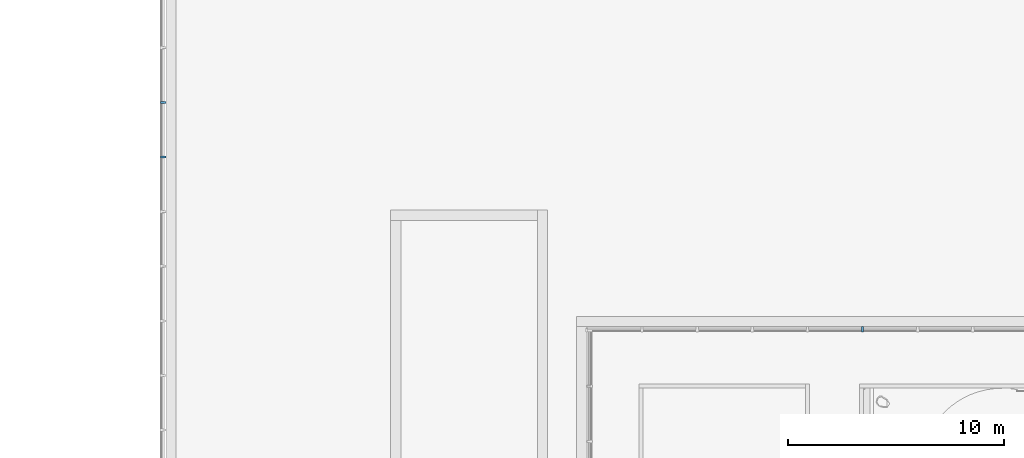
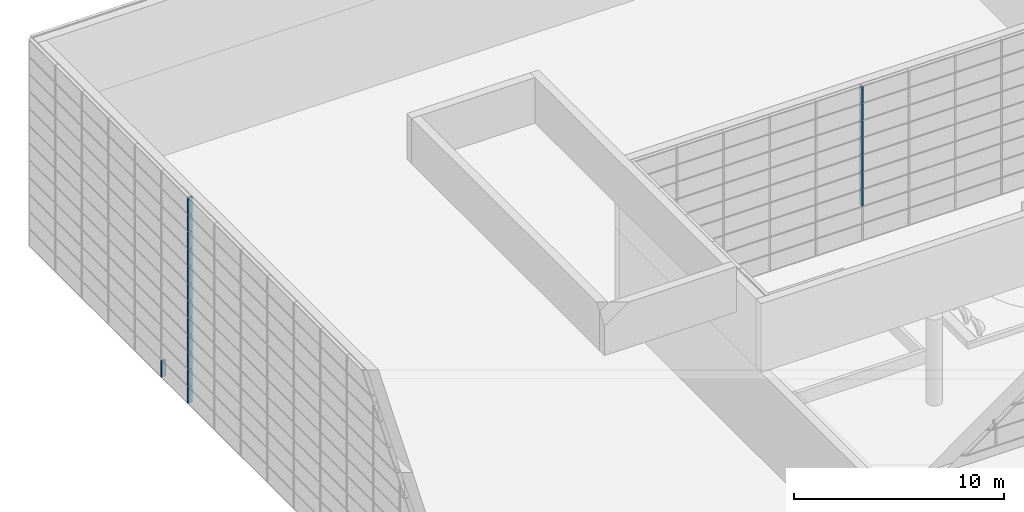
# One storey, part 81 of 105: 20 building element parts, 7 elements without a shape of their own.
"""IFC4 building model written with IfcOpenShell, lengths in millimetres."""

import ifcopenshell
import ifcopenshell.guid

model = None  # the IFC model being written
_history = None  # IfcOwnerHistory: only IFC2X3 demands one
_inside = {}  # id of a spatial element -> (the spatial element, [elements in it])
_under = {}  # id of a project, library or spatial element -> (it, [spatial elements below it])
_declared = {}  # id of a project -> (the project, [libraries it declares])
_typed = {}  # id of a type object -> (the type object, [elements of that type])
_made_of = {}  # id of a material, layer set ... -> (it, [elements and type objects made of it])


def new_model(schema):
    """Start an empty IFC model of exactly this schema.

    Asked for "IFC4X3", IfcOpenShell would pick the latest addendum, in which some entities
    have other attributes; the version numbers below select the first issue.
    IFC2X3 requires an IfcOwnerHistory on every rooted entity: one is made here for all.
    """
    global model, _history
    if schema == "IFC4X3":
        model = ifcopenshell.file(schema_version=(4, 3, 0, 0))
    else:
        model = ifcopenshell.file(schema=schema)
    _inside.clear()
    _under.clear()
    _declared.clear()
    _typed.clear()
    _made_of.clear()
    _history = None
    if model.schema == "IFC2X3":
        org = make("IfcOrganization", Name="unknown")
        user = make(
            "IfcPersonAndOrganization",
            ThePerson=make("IfcPerson", FamilyName="unknown"),
            TheOrganization=org,
        )
        app = make(
            "IfcApplication",
            ApplicationDeveloper=org,
            Version="unknown",
            ApplicationFullName="unknown",
            ApplicationIdentifier="unknown",
        )
        _history = make(
            "IfcOwnerHistory",
            OwningUser=user,
            OwningApplication=app,
            ChangeAction="ADDED",
            CreationDate=0,
        )
    return model


def make(cls, **values):
    """One entity of the class cls with the attributes given. An attribute that is None is left unset."""
    return model.create_entity(
        cls, **{name: value for name, value in values.items() if value is not None}
    )


def entity(cls, *values):
    """Any entity or typed value of the class cls, its attributes in the order of the schema. None: left unset."""
    e = model.create_entity(cls)
    for i, value in enumerate(values):
        if value is not None:
            e[i] = value
    return e


def rooted(cls, **values):
    """An entity with a GlobalId (a new one), such as an element, a storey or a relation."""
    return make(cls, GlobalId=ifcopenshell.guid.new(), OwnerHistory=_history, **values)


def si_unit(unit_type, name, prefix=None):
    """IfcSIUnit, for example si_unit("LENGTHUNIT", "METRE", prefix="MILLI")."""
    return make("IfcSIUnit", UnitType=unit_type, Prefix=prefix, Name=name)


def converted_unit(unit_type, name, factor, base, dimensions=None, offset=None):
    """IfcConversionBasedUnit, such as the inch: factor (a typed value) times the base unit."""
    return make(
        "IfcConversionBasedUnit"
        if offset is None
        else "IfcConversionBasedUnitWithOffset",
        ConversionOffset=offset,
        Dimensions=None
        if dimensions is None
        else entity("IfcDimensionalExponents", *dimensions),
        UnitType=unit_type,
        Name=name,
        ConversionFactor=make(
            "IfcMeasureWithUnit", ValueComponent=factor, UnitComponent=base
        ),
    )


def derived_unit(unit_type, elements):
    """IfcDerivedUnit: a product of units, each with its exponent."""
    return make(
        "IfcDerivedUnit",
        Elements=[
            make("IfcDerivedUnitElement", Unit=unit, Exponent=power)
            for unit, power in elements
        ],
        UnitType=unit_type,
    )


def assignment(units):
    """IfcUnitAssignment: the units of a project."""
    return None if units is None else make("IfcUnitAssignment", Units=units)


def point(xyz):
    """IfcCartesianPoint."""
    return None if xyz is None else make("IfcCartesianPoint", Coordinates=xyz)


def direction(xyz):
    """IfcDirection."""
    return None if xyz is None else make("IfcDirection", DirectionRatios=xyz)


def frame(location, z_axis=None, x_axis=None):
    """IfcAxis2Placement3D, a coordinate frame: its origin and axes. An axis left out is left unset."""
    return make(
        "IfcAxis2Placement3D",
        Location=point(location),
        Axis=direction(z_axis),
        RefDirection=direction(x_axis),
    )


def origin_with_axes():
    """The frame at (0, 0, 0) with the z axis (0, 0, 1) and the x axis (1, 0, 0) written out."""
    return frame((0.0, 0.0, 0.0), z_axis=(0.0, 0.0, 1.0), x_axis=(1.0, 0.0, 0.0))


def place(relative_to, where):
    """IfcLocalPlacement: puts the frame where relative to a parent placement (None: the world)."""
    return make(
        "IfcLocalPlacement", PlacementRelTo=relative_to, RelativePlacement=where
    )


def context(
    kind, dimensions, precision=None, world=None, true_north=None, identifier=None
):
    """IfcGeometricRepresentationContext, for example the 3D "Model" context."""
    return make(
        "IfcGeometricRepresentationContext",
        ContextIdentifier=identifier,
        ContextType=kind,
        CoordinateSpaceDimension=dimensions,
        Precision=precision,
        WorldCoordinateSystem=world,
        TrueNorth=true_north,
    )


def subcontext(parent, identifier, kind, view, scale=None):
    """IfcGeometricRepresentationSubContext, for example "Body" below "Model"."""
    return make(
        "IfcGeometricRepresentationSubContext",
        ContextIdentifier=identifier,
        ContextType=kind,
        ParentContext=parent,
        TargetScale=scale,
        TargetView=view,
    )


def project(units=None, contexts=None):
    """IfcProject with its units and contexts."""
    return rooted(
        "IfcProject",
        Name="project",
        RepresentationContexts=contexts,
        UnitsInContext=assignment(units),
    )


def spatial(cls, under=None, at=None, **own):
    """A site, building, storey or space (cls), placed at a placement, below another one or the project."""
    s = rooted(cls, ObjectPlacement=at, **own)
    if under is not None:
        _under.setdefault(under.id(), (under, []))[1].append(s)
    return s


def point_list(points):
    """IfcCartesianPointList2D or 3D."""
    cls = (
        "IfcCartesianPointList2D" if len(points[0]) == 2 else "IfcCartesianPointList3D"
    )
    return make(cls, CoordList=points)


def triangles(points, corners, closed=None, point_numbers=None):
    """IfcTriangulatedFaceSet: each triangle names its three corners, points numbered from 1."""
    return make(
        "IfcTriangulatedFaceSet",
        Coordinates=point_list(points),
        Closed=closed,
        CoordIndex=corners,
        PnIndex=point_numbers,
    )


def shape(context_of_items, identifier, shape_type, items):
    """IfcShapeRepresentation: the items that make up one representation, for example the "Body"."""
    return make(
        "IfcShapeRepresentation",
        ContextOfItems=context_of_items,
        RepresentationIdentifier=identifier,
        RepresentationType=shape_type,
        Items=items,
    )


def material(Name=None, Category=None):
    """IfcMaterial."""
    return make("IfcMaterial", Name=Name, Category=Category)


def made_of(thing, what):
    """Note that an element or type object is made of a material, layer set ...; save() writes the relation."""
    if what is not None:
        _made_of.setdefault(what.id(), (what, []))[1].append(thing)
    return thing


def element(
    cls,
    number,
    at=None,
    inside=None,
    cuts=None,
    type_object=None,
    material=None,
    context=None,
    identifier="Body",
    shape_type=None,
    held_by="IfcProductDefinitionShape",
    body=None,
    shapes=None,
    **own,
):
    """One element of the class cls, such as IfcWall. Its Tag is "e" and its number.

    at: its placement. inside: the storey or other place that contains it. cuts: it is an
    opening in that element (IfcRelVoidsElement). A single representation is given by context,
    identifier, shape_type and body (its items); several are given by shapes. held_by: the class
    of the entity that holds the representations. save() writes the other relations.
    """
    e = rooted(cls, Tag="e%d" % number, ObjectPlacement=at, **own)
    if body is not None:
        shapes = [shape(context, identifier, shape_type, body)]
    if shapes is not None:
        e.Representation = make(held_by, Representations=shapes)
    if inside is not None:
        _inside.setdefault(inside.id(), (inside, []))[1].append(e)
    if cuts is not None:
        rooted(
            "IfcRelVoidsElement", RelatingBuildingElement=cuts, RelatedOpeningElement=e
        )
    if type_object is not None:
        _typed.setdefault(type_object.id(), (type_object, []))[1].append(e)
    return made_of(e, material)


def aggregate(whole, parts):
    """IfcRelAggregates: a whole, such as a stair, and the parts it consists of."""
    return rooted("IfcRelAggregates", RelatingObject=whole, RelatedObjects=parts)


def save(model, path):
    """Write the relations noted so far, then the file.

    IfcRelAggregates (storeys below a building ...), IfcRelContainedInSpatialStructure (elements
    in a storey), IfcRelDefinesByType, IfcRelAssociatesMaterial and IfcRelDeclares: one each for
    every whole, place, type object, material and project.
    """
    for whole, parts in _under.values():
        aggregate(whole, parts)
    for where, things in _inside.values():
        rooted(
            "IfcRelContainedInSpatialStructure",
            RelatedElements=things,
            RelatingStructure=where,
        )
    for kind, things in _typed.values():
        rooted("IfcRelDefinesByType", RelatedObjects=things, RelatingType=kind)
    for what, things in _made_of.values():
        rooted("IfcRelAssociatesMaterial", RelatedObjects=things, RelatingMaterial=what)
    for by, libraries in _declared.values():
        rooted("IfcRelDeclares", RelatingContext=by, RelatedDefinitions=libraries)
    model.write(path)


model = new_model("IFC4")

# Units and contexts
model_context = context("Model", 3, precision=1e-05, world=origin_with_axes(), true_north=direction((0.0, 1.0)))
body_context = subcontext(model_context, "Body", "Model", "MODEL_VIEW")
ifc_project = project(units=[si_unit("LENGTHUNIT", "METRE", prefix="MILLI"), si_unit("AREAUNIT", "SQUARE_METRE"), si_unit("VOLUMEUNIT", "CUBIC_METRE"), converted_unit("PLANEANGLEUNIT", "DEGREE", entity("IfcLengthMeasure", 0.017453), si_unit("PLANEANGLEUNIT", "RADIAN"), dimensions=[0, 0, 0, 0, 0, 0, 0]), si_unit("SOLIDANGLEUNIT", "STERADIAN"), si_unit("MASSUNIT", "GRAM"), si_unit("TIMEUNIT", "SECOND"), si_unit("THERMODYNAMICTEMPERATUREUNIT", "DEGREE_CELSIUS"), si_unit("LUMINOUSINTENSITYUNIT", "LUMEN"), si_unit("POWERUNIT", "WATT"), derived_unit("THERMALTRANSMITTANCEUNIT", [(si_unit("POWERUNIT", "WATT"), 1), (si_unit("THERMODYNAMICTEMPERATUREUNIT", "KELVIN"), -1), (si_unit("AREAUNIT", "SQUARE_METRE"), -1)])], contexts=[model_context])

# Site, building, storey
site_placement = place(None, origin_with_axes())
site = spatial("IfcSite", under=ifc_project, at=site_placement, Name="Default Site", CompositionType="ELEMENT")
building_placement = place(site_placement, origin_with_axes())
building = spatial("IfcBuilding", under=site, at=building_placement, Name="Default Building", CompositionType="ELEMENT")
storey_placement = place(building_placement, origin_with_axes())
storey = spatial("IfcBuildingStorey", under=building, at=storey_placement, Name="OG - Story", CompositionType="ELEMENT", Elevation=0.0)

# Curtain wall, building element parts
curtain_wall_1_placement = place(storey_placement, origin_with_axes())
curtain_wall_1 = element("IfcCurtainWall", 1, at=curtain_wall_1_placement, inside=storey, Name="Fassade-003", PredefinedType="NOTDEFINED")
ifc_material = material(Name="Blech")
building_element_part_1_placement = place(curtain_wall_1_placement, frame((31551.391327, -51326.104944, 0.0), z_axis=(0.0, 0.0, 1.0), x_axis=(1.0, 0.0, 0.0)))
building_element_part_1 = element("IfcBuildingElementPart", 2, at=building_element_part_1_placement, material=ifc_material, Name="Blech", PredefinedType="NOTDEFINED", context=body_context, shape_type="Tessellation", body=[
    triangles([(200.0, 31538.947, 975.0), (10.0, 31538.947, 975.0), (200.0, 31618.947, 975.0), (10.0, 31568.947, 975.0), (10.0, 31588.947, 975.0), (-9.999, 31568.947, 975.0), (-9.999, 31588.947, 975.0), (-9.999, 31618.947, 975.0), (-9.999, 31538.947, 975.0), (-49.999, 31538.947, 975.0), (-49.999, 31618.947, 975.0), (10.0, 31618.947, 975.0), (10.0, 31588.947, 25.0), (-9.999, 31588.947, 25.0), (-9.999, 31618.947, 25.0), (-49.999, 31618.947, 25.0), (-49.999, 31538.947, 25.0), (-9.999, 31538.947, 25.0), (-9.999, 31568.947, 25.0), (10.0, 31568.947, 25.0), (10.0, 31538.947, 25.0), (200.0, 31538.947, 25.0), (200.0, 31618.947, 25.0), (10.0, 31618.947, 25.0)], [[1, 2, 3], [3, 2, 4], [3, 4, 5], [5, 4, 6], [5, 6, 7], [8, 9, 10], [8, 10, 11], [3, 5, 12], [5, 13, 14], [5, 14, 7], [7, 14, 15], [7, 15, 8], [15, 16, 11], [15, 11, 8], [10, 11, 16], [10, 16, 17], [18, 9, 10], [18, 10, 17], [9, 18, 19], [9, 19, 6], [4, 6, 19], [4, 19, 20], [2, 4, 20], [2, 20, 21], [2, 21, 22], [2, 22, 1], [3, 1, 22], [3, 22, 23], [12, 3, 23], [12, 23, 24], [12, 24, 13], [12, 13, 5], [23, 24, 22], [22, 24, 13], [22, 13, 20], [20, 13, 14], [20, 14, 19], [18, 15, 16], [18, 16, 17], [22, 20, 21]], closed=False),
])
building_element_part_2_placement = place(curtain_wall_1_placement, frame((31551.391327, -51326.104944, 0.0), z_axis=(0.0, 0.0, 1.0), x_axis=(1.0, 0.0, 0.0)))
building_element_part_2 = element("IfcBuildingElementPart", 3, at=building_element_part_2_placement, material=ifc_material, Name="Blech", PredefinedType="NOTDEFINED", context=body_context, shape_type="Tessellation", body=[
    triangles([(200.0, 34065.263, 975.0), (10.0, 34065.263, 975.0), (200.0, 34145.263, 975.0), (10.0, 34095.263, 975.0), (10.0, 34115.263, 975.0), (-9.999, 34095.263, 975.0), (-9.999, 34115.263, 975.0), (-9.999, 34145.263, 975.0), (-9.999, 34065.263, 975.0), (-49.999, 34065.263, 975.0), (-49.999, 34145.263, 975.0), (10.0, 34145.263, 975.0), (10.0, 34115.263, 25.0), (-9.999, 34115.263, 25.0), (-9.999, 34145.263, 25.0), (-49.999, 34145.263, 25.0), (-49.999, 34065.263, 25.0), (-9.999, 34065.263, 25.0), (-9.999, 34095.263, 25.0), (10.0, 34095.263, 25.0), (10.0, 34065.263, 25.0), (200.0, 34065.263, 25.0), (200.0, 34145.263, 25.0), (10.0, 34145.263, 25.0)], [[1, 2, 3], [3, 2, 4], [3, 4, 5], [5, 4, 6], [5, 6, 7], [8, 9, 10], [8, 10, 11], [3, 5, 12], [5, 13, 14], [5, 14, 7], [7, 14, 15], [7, 15, 8], [15, 16, 11], [15, 11, 8], [10, 11, 16], [10, 16, 17], [18, 9, 10], [18, 10, 17], [9, 18, 19], [9, 19, 6], [4, 6, 19], [4, 19, 20], [2, 4, 20], [2, 20, 21], [2, 21, 22], [2, 22, 1], [3, 1, 22], [3, 22, 23], [12, 3, 23], [12, 23, 24], [12, 24, 13], [12, 13, 5], [23, 24, 22], [22, 24, 13], [22, 13, 20], [20, 13, 14], [20, 14, 19], [18, 15, 16], [18, 16, 17], [22, 20, 21]], closed=False),
])
building_element_part_3_placement = place(curtain_wall_1_placement, frame((31551.391327, -51326.104944, 0.0), z_axis=(0.0, 0.0, 1.0), x_axis=(1.0, 0.0, 0.0)))
building_element_part_3 = element("IfcBuildingElementPart", 4, at=building_element_part_3_placement, material=ifc_material, Name="Blech", PredefinedType="NOTDEFINED", context=body_context, shape_type="Tessellation", body=[
    triangles([(200.0, 31538.947, 1975.0), (10.0, 31538.947, 1975.0), (200.0, 31618.947, 1975.0), (10.0, 31568.947, 1975.0), (10.0, 31588.947, 1975.0), (-9.999, 31568.947, 1975.0), (-9.999, 31588.947, 1975.0), (-9.999, 31618.947, 1975.0), (-9.999, 31538.947, 1975.0), (-49.999, 31538.947, 1975.0), (-49.999, 31618.947, 1975.0), (10.0, 31618.947, 1975.0), (10.0, 31588.947, 1025.0), (-9.999, 31588.947, 1025.0), (-9.999, 31618.947, 1025.0), (-49.999, 31618.947, 1025.0), (-49.999, 31538.947, 1025.0), (-9.999, 31538.947, 1025.0), (-9.999, 31568.947, 1025.0), (10.0, 31568.947, 1025.0), (10.0, 31538.947, 1025.0), (200.0, 31538.947, 1025.0), (200.0, 31618.947, 1025.0), (10.0, 31618.947, 1025.0)], [[1, 2, 3], [3, 2, 4], [3, 4, 5], [5, 4, 6], [5, 6, 7], [8, 9, 10], [8, 10, 11], [3, 5, 12], [5, 13, 14], [5, 14, 7], [7, 14, 15], [7, 15, 8], [15, 16, 11], [15, 11, 8], [10, 11, 16], [10, 16, 17], [18, 9, 10], [18, 10, 17], [9, 18, 19], [9, 19, 6], [4, 6, 19], [4, 19, 20], [2, 4, 20], [2, 20, 21], [2, 21, 22], [2, 22, 1], [3, 1, 22], [3, 22, 23], [12, 3, 23], [12, 23, 24], [12, 24, 13], [12, 13, 5], [23, 24, 22], [22, 24, 13], [22, 13, 20], [20, 13, 14], [20, 14, 19], [18, 15, 16], [18, 16, 17], [22, 20, 21]], closed=False),
])
building_element_part_4_placement = place(curtain_wall_1_placement, frame((31551.391327, -51326.104944, 0.0), z_axis=(0.0, 0.0, 1.0), x_axis=(1.0, 0.0, 0.0)))
building_element_part_4 = element("IfcBuildingElementPart", 5, at=building_element_part_4_placement, material=ifc_material, Name="Blech", PredefinedType="NOTDEFINED", context=body_context, shape_type="Tessellation", body=[
    triangles([(200.0, 31538.947, 2975.0), (10.0, 31538.947, 2975.0), (200.0, 31618.947, 2975.0), (10.0, 31568.947, 2975.0), (10.0, 31588.947, 2975.0), (-9.999, 31568.947, 2975.0), (-9.999, 31588.947, 2975.0), (-9.999, 31618.947, 2975.0), (-9.999, 31538.947, 2975.0), (-49.999, 31538.947, 2975.0), (-49.999, 31618.947, 2975.0), (10.0, 31618.947, 2975.0), (10.0, 31588.947, 2025.0), (-9.999, 31588.947, 2025.0), (-9.999, 31618.947, 2025.0), (-49.999, 31618.947, 2025.0), (-49.999, 31538.947, 2025.0), (-9.999, 31538.947, 2025.0), (-9.999, 31568.947, 2025.0), (10.0, 31568.947, 2025.0), (10.0, 31538.947, 2025.0), (200.0, 31538.947, 2025.0), (200.0, 31618.947, 2025.0), (10.0, 31618.947, 2025.0)], [[1, 2, 3], [3, 2, 4], [3, 4, 5], [5, 4, 6], [5, 6, 7], [8, 9, 10], [8, 10, 11], [3, 5, 12], [5, 13, 14], [5, 14, 7], [7, 14, 15], [7, 15, 8], [15, 16, 11], [15, 11, 8], [10, 11, 16], [10, 16, 17], [18, 9, 10], [18, 10, 17], [9, 18, 19], [9, 19, 6], [4, 6, 19], [4, 19, 20], [2, 4, 20], [2, 20, 21], [2, 21, 22], [2, 22, 1], [3, 1, 22], [3, 22, 23], [12, 3, 23], [12, 23, 24], [12, 24, 13], [12, 13, 5], [23, 24, 22], [22, 24, 13], [22, 13, 20], [20, 13, 14], [20, 14, 19], [18, 15, 16], [18, 16, 17], [22, 20, 21]], closed=False),
])
aggregate(curtain_wall_1, [building_element_part_1, building_element_part_2, building_element_part_3, building_element_part_4])

curtain_wall_2_placement = place(storey_placement, origin_with_axes())
curtain_wall_2 = element("IfcCurtainWall", 6, at=curtain_wall_2_placement, inside=storey, Name="Fassade-003", PredefinedType="NOTDEFINED")
building_element_part_5_placement = place(curtain_wall_2_placement, frame((31551.391327, -51326.104944, 3000.0), z_axis=(0.0, 0.0, 1.0), x_axis=(1.0, 0.0, 0.0)))
building_element_part_5 = element("IfcBuildingElementPart", 7, at=building_element_part_5_placement, material=ifc_material, Name="Blech", PredefinedType="NOTDEFINED", context=body_context, shape_type="Tessellation", body=[
    triangles([(200.0, 31538.947, 975.0), (10.0, 31538.947, 975.0), (200.0, 31618.947, 975.0), (10.0, 31568.947, 975.0), (10.0, 31588.947, 975.0), (-9.999, 31568.947, 975.0), (-9.999, 31588.947, 975.0), (-9.999, 31618.947, 975.0), (-9.999, 31538.947, 975.0), (-49.999, 31538.947, 975.0), (-49.999, 31618.947, 975.0), (10.0, 31618.947, 975.0), (10.0, 31588.947, 25.0), (-9.999, 31588.947, 25.0), (-9.999, 31618.947, 25.0), (-49.999, 31618.947, 25.0), (-49.999, 31538.947, 25.0), (-9.999, 31538.947, 25.0), (-9.999, 31568.947, 25.0), (10.0, 31568.947, 25.0), (10.0, 31538.947, 25.0), (200.0, 31538.947, 25.0), (200.0, 31618.947, 25.0), (10.0, 31618.947, 25.0)], [[1, 2, 3], [3, 2, 4], [3, 4, 5], [5, 4, 6], [5, 6, 7], [8, 9, 10], [8, 10, 11], [3, 5, 12], [5, 13, 14], [5, 14, 7], [7, 14, 15], [7, 15, 8], [15, 16, 11], [15, 11, 8], [10, 11, 16], [10, 16, 17], [18, 9, 10], [18, 10, 17], [9, 18, 19], [9, 19, 6], [4, 6, 19], [4, 19, 20], [2, 4, 20], [2, 20, 21], [2, 21, 22], [2, 22, 1], [3, 1, 22], [3, 22, 23], [12, 3, 23], [12, 23, 24], [12, 24, 13], [12, 13, 5], [23, 24, 22], [22, 24, 13], [22, 13, 20], [20, 13, 14], [20, 14, 19], [18, 15, 16], [18, 16, 17], [22, 20, 21]], closed=False),
])
building_element_part_6_placement = place(curtain_wall_2_placement, frame((31551.391327, -51326.104944, 3000.0), z_axis=(0.0, 0.0, 1.0), x_axis=(1.0, 0.0, 0.0)))
building_element_part_6 = element("IfcBuildingElementPart", 8, at=building_element_part_6_placement, material=ifc_material, Name="Blech", PredefinedType="NOTDEFINED", context=body_context, shape_type="Tessellation", body=[
    triangles([(200.0, 31538.947, 1975.0), (10.0, 31538.947, 1975.0), (200.0, 31618.947, 1975.0), (10.0, 31568.947, 1975.0), (10.0, 31588.947, 1975.0), (-9.999, 31568.947, 1975.0), (-9.999, 31588.947, 1975.0), (-9.999, 31618.947, 1975.0), (-9.999, 31538.947, 1975.0), (-49.999, 31538.947, 1975.0), (-49.999, 31618.947, 1975.0), (10.0, 31618.947, 1975.0), (10.0, 31588.947, 1025.0), (-9.999, 31588.947, 1025.0), (-9.999, 31618.947, 1025.0), (-49.999, 31618.947, 1025.0), (-49.999, 31538.947, 1025.0), (-9.999, 31538.947, 1025.0), (-9.999, 31568.947, 1025.0), (10.0, 31568.947, 1025.0), (10.0, 31538.947, 1025.0), (200.0, 31538.947, 1025.0), (200.0, 31618.947, 1025.0), (10.0, 31618.947, 1025.0)], [[1, 2, 3], [3, 2, 4], [3, 4, 5], [5, 4, 6], [5, 6, 7], [8, 9, 10], [8, 10, 11], [3, 5, 12], [5, 13, 14], [5, 14, 7], [7, 14, 15], [7, 15, 8], [15, 16, 11], [15, 11, 8], [10, 11, 16], [10, 16, 17], [18, 9, 10], [18, 10, 17], [9, 18, 19], [9, 19, 6], [4, 6, 19], [4, 19, 20], [2, 4, 20], [2, 20, 21], [2, 21, 22], [2, 22, 1], [3, 1, 22], [3, 22, 23], [12, 3, 23], [12, 23, 24], [12, 24, 13], [12, 13, 5], [23, 24, 22], [22, 24, 13], [22, 13, 20], [20, 13, 14], [20, 14, 19], [18, 15, 16], [18, 16, 17], [22, 20, 21]], closed=False),
])
building_element_part_7_placement = place(curtain_wall_2_placement, frame((31551.391327, -51326.104944, 3000.0), z_axis=(0.0, 0.0, 1.0), x_axis=(1.0, 0.0, 0.0)))
building_element_part_7 = element("IfcBuildingElementPart", 9, at=building_element_part_7_placement, material=ifc_material, Name="Blech", PredefinedType="NOTDEFINED", context=body_context, shape_type="Tessellation", body=[
    triangles([(200.0, 31538.947, 2975.0), (10.0, 31538.947, 2975.0), (200.0, 31618.947, 2975.0), (10.0, 31568.947, 2975.0), (10.0, 31588.947, 2975.0), (-9.999, 31568.947, 2975.0), (-9.999, 31588.947, 2975.0), (-9.999, 31618.947, 2975.0), (-9.999, 31538.947, 2975.0), (-49.999, 31538.947, 2975.0), (-49.999, 31618.947, 2975.0), (10.0, 31618.947, 2975.0), (10.0, 31588.947, 2025.0), (-9.999, 31588.947, 2025.0), (-9.999, 31618.947, 2025.0), (-49.999, 31618.947, 2025.0), (-49.999, 31538.947, 2025.0), (-9.999, 31538.947, 2025.0), (-9.999, 31568.947, 2025.0), (10.0, 31568.947, 2025.0), (10.0, 31538.947, 2025.0), (200.0, 31538.947, 2025.0), (200.0, 31618.947, 2025.0), (10.0, 31618.947, 2025.0)], [[1, 2, 3], [3, 2, 4], [3, 4, 5], [5, 4, 6], [5, 6, 7], [8, 9, 10], [8, 10, 11], [3, 5, 12], [5, 13, 14], [5, 14, 7], [7, 14, 15], [7, 15, 8], [15, 16, 11], [15, 11, 8], [10, 11, 16], [10, 16, 17], [18, 9, 10], [18, 10, 17], [9, 18, 19], [9, 19, 6], [4, 6, 19], [4, 19, 20], [2, 4, 20], [2, 20, 21], [2, 21, 22], [2, 22, 1], [3, 1, 22], [3, 22, 23], [12, 3, 23], [12, 23, 24], [12, 24, 13], [12, 13, 5], [23, 24, 22], [22, 24, 13], [22, 13, 20], [20, 13, 14], [20, 14, 19], [18, 15, 16], [18, 16, 17], [22, 20, 21]], closed=False),
])
aggregate(curtain_wall_2, [building_element_part_5, building_element_part_6, building_element_part_7])

curtain_wall_3_placement = place(storey_placement, origin_with_axes())
curtain_wall_3 = element("IfcCurtainWall", 10, at=curtain_wall_3_placement, inside=storey, Name="Fassade-003", PredefinedType="NOTDEFINED")
building_element_part_8_placement = place(curtain_wall_3_placement, frame((31551.391327, -51326.104944, 6000.0), z_axis=(0.0, 0.0, 1.0), x_axis=(1.0, 0.0, 0.0)))
building_element_part_8 = element("IfcBuildingElementPart", 11, at=building_element_part_8_placement, material=ifc_material, Name="Blech", PredefinedType="NOTDEFINED", context=body_context, shape_type="Tessellation", body=[
    triangles([(200.0, 31538.947, 975.0), (10.0, 31538.947, 975.0), (200.0, 31618.947, 975.0), (10.0, 31568.947, 975.0), (10.0, 31588.947, 975.0), (-9.999, 31568.947, 975.0), (-9.999, 31588.947, 975.0), (-9.999, 31618.947, 975.0), (-9.999, 31538.947, 975.0), (-49.999, 31538.947, 975.0), (-49.999, 31618.947, 975.0), (10.0, 31618.947, 975.0), (10.0, 31588.947, 25.0), (-9.999, 31588.947, 25.0), (-9.999, 31618.947, 25.0), (-49.999, 31618.947, 25.0), (-49.999, 31538.947, 25.0), (-9.999, 31538.947, 25.0), (-9.999, 31568.947, 25.0), (10.0, 31568.947, 25.0), (10.0, 31538.947, 25.0), (200.0, 31538.947, 25.0), (200.0, 31618.947, 25.0), (10.0, 31618.947, 25.0)], [[1, 2, 3], [3, 2, 4], [3, 4, 5], [5, 4, 6], [5, 6, 7], [8, 9, 10], [8, 10, 11], [3, 5, 12], [5, 13, 14], [5, 14, 7], [7, 14, 15], [7, 15, 8], [15, 16, 11], [15, 11, 8], [10, 11, 16], [10, 16, 17], [18, 9, 10], [18, 10, 17], [9, 18, 19], [9, 19, 6], [4, 6, 19], [4, 19, 20], [2, 4, 20], [2, 20, 21], [2, 21, 22], [2, 22, 1], [3, 1, 22], [3, 22, 23], [12, 3, 23], [12, 23, 24], [12, 24, 13], [12, 13, 5], [23, 24, 22], [22, 24, 13], [22, 13, 20], [20, 13, 14], [20, 14, 19], [18, 15, 16], [18, 16, 17], [22, 20, 21]], closed=False),
])
building_element_part_9_placement = place(curtain_wall_3_placement, frame((31551.391327, -51326.104944, 6000.0), z_axis=(0.0, 0.0, 1.0), x_axis=(1.0, 0.0, 0.0)))
building_element_part_9 = element("IfcBuildingElementPart", 12, at=building_element_part_9_placement, material=ifc_material, Name="Blech", PredefinedType="NOTDEFINED", context=body_context, shape_type="Tessellation", body=[
    triangles([(200.0, 31538.947, 1975.0), (10.0, 31538.947, 1975.0), (200.0, 31618.947, 1975.0), (10.0, 31568.947, 1975.0), (10.0, 31588.947, 1975.0), (-9.999, 31568.947, 1975.0), (-9.999, 31588.947, 1975.0), (-9.999, 31618.947, 1975.0), (-9.999, 31538.947, 1975.0), (-49.999, 31538.947, 1975.0), (-49.999, 31618.947, 1975.0), (10.0, 31618.947, 1975.0), (10.0, 31588.947, 1025.0), (-9.999, 31588.947, 1025.0), (-9.999, 31618.947, 1025.0), (-49.999, 31618.947, 1025.0), (-49.999, 31538.947, 1025.0), (-9.999, 31538.947, 1025.0), (-9.999, 31568.947, 1025.0), (10.0, 31568.947, 1025.0), (10.0, 31538.947, 1025.0), (200.0, 31538.947, 1025.0), (200.0, 31618.947, 1025.0), (10.0, 31618.947, 1025.0)], [[1, 2, 3], [3, 2, 4], [3, 4, 5], [5, 4, 6], [5, 6, 7], [8, 9, 10], [8, 10, 11], [3, 5, 12], [5, 13, 14], [5, 14, 7], [7, 14, 15], [7, 15, 8], [15, 16, 11], [15, 11, 8], [10, 11, 16], [10, 16, 17], [18, 9, 10], [18, 10, 17], [9, 18, 19], [9, 19, 6], [4, 6, 19], [4, 19, 20], [2, 4, 20], [2, 20, 21], [2, 21, 22], [2, 22, 1], [3, 1, 22], [3, 22, 23], [12, 3, 23], [12, 23, 24], [12, 24, 13], [12, 13, 5], [23, 24, 22], [22, 24, 13], [22, 13, 20], [20, 13, 14], [20, 14, 19], [18, 15, 16], [18, 16, 17], [22, 20, 21]], closed=False),
])
building_element_part_10_placement = place(curtain_wall_3_placement, frame((31551.391327, -51326.104944, 6000.0), z_axis=(0.0, 0.0, 1.0), x_axis=(1.0, 0.0, 0.0)))
building_element_part_10 = element("IfcBuildingElementPart", 13, at=building_element_part_10_placement, material=ifc_material, Name="Blech", PredefinedType="NOTDEFINED", context=body_context, shape_type="Tessellation", body=[
    triangles([(200.0, 31538.947, 2975.0), (10.0, 31538.947, 2975.0), (200.0, 31618.947, 2975.0), (10.0, 31568.947, 2975.0), (10.0, 31588.947, 2975.0), (-9.999, 31568.947, 2975.0), (-9.999, 31588.947, 2975.0), (-9.999, 31618.947, 2975.0), (-9.999, 31538.947, 2975.0), (-49.999, 31538.947, 2975.0), (-49.999, 31618.947, 2975.0), (10.0, 31618.947, 2975.0), (10.0, 31588.947, 2025.0), (-9.999, 31588.947, 2025.0), (-9.999, 31618.947, 2025.0), (-49.999, 31618.947, 2025.0), (-49.999, 31538.947, 2025.0), (-9.999, 31538.947, 2025.0), (-9.999, 31568.947, 2025.0), (10.0, 31568.947, 2025.0), (10.0, 31538.947, 2025.0), (200.0, 31538.947, 2025.0), (200.0, 31618.947, 2025.0), (10.0, 31618.947, 2025.0)], [[1, 2, 3], [3, 2, 4], [3, 4, 5], [5, 4, 6], [5, 6, 7], [8, 9, 10], [8, 10, 11], [3, 5, 12], [5, 13, 14], [5, 14, 7], [7, 14, 15], [7, 15, 8], [15, 16, 11], [15, 11, 8], [10, 11, 16], [10, 16, 17], [18, 9, 10], [18, 10, 17], [9, 18, 19], [9, 19, 6], [4, 6, 19], [4, 19, 20], [2, 4, 20], [2, 20, 21], [2, 21, 22], [2, 22, 1], [3, 1, 22], [3, 22, 23], [12, 3, 23], [12, 23, 24], [12, 24, 13], [12, 13, 5], [23, 24, 22], [22, 24, 13], [22, 13, 20], [20, 13, 14], [20, 14, 19], [18, 15, 16], [18, 16, 17], [22, 20, 21]], closed=False),
])
aggregate(curtain_wall_3, [building_element_part_8, building_element_part_9, building_element_part_10])

curtain_wall_4_placement = place(storey_placement, origin_with_axes())
curtain_wall_4 = element("IfcCurtainWall", 14, at=curtain_wall_4_placement, inside=storey, Name="Fassade-003", PredefinedType="NOTDEFINED")
building_element_part_11_placement = place(curtain_wall_4_placement, frame((31551.391327, -51326.104944, 9000.0), z_axis=(0.0, 0.0, 1.0), x_axis=(1.0, 0.0, 0.0)))
building_element_part_11 = element("IfcBuildingElementPart", 15, at=building_element_part_11_placement, material=ifc_material, Name="Blech", PredefinedType="NOTDEFINED", context=body_context, shape_type="Tessellation", body=[
    triangles([(200.0, 31538.947, 975.0), (10.0, 31538.947, 975.0), (200.0, 31618.947, 975.0), (10.0, 31568.947, 975.0), (10.0, 31588.947, 975.0), (-9.999, 31568.947, 975.0), (-9.999, 31588.947, 975.0), (-9.999, 31618.947, 975.0), (-9.999, 31538.947, 975.0), (-49.999, 31538.947, 975.0), (-49.999, 31618.947, 975.0), (10.0, 31618.947, 975.0), (10.0, 31588.947, 25.0), (-9.999, 31588.947, 25.0), (-9.999, 31618.947, 25.0), (-49.999, 31618.947, 25.0), (-49.999, 31538.947, 25.0), (-9.999, 31538.947, 25.0), (-9.999, 31568.947, 25.0), (10.0, 31568.947, 25.0), (10.0, 31538.947, 25.0), (200.0, 31538.947, 25.0), (200.0, 31618.947, 25.0), (10.0, 31618.947, 25.0)], [[1, 2, 3], [3, 2, 4], [3, 4, 5], [5, 4, 6], [5, 6, 7], [8, 9, 10], [8, 10, 11], [3, 5, 12], [5, 13, 14], [5, 14, 7], [7, 14, 15], [7, 15, 8], [15, 16, 11], [15, 11, 8], [10, 11, 16], [10, 16, 17], [18, 9, 10], [18, 10, 17], [9, 18, 19], [9, 19, 6], [4, 6, 19], [4, 19, 20], [2, 4, 20], [2, 20, 21], [2, 21, 22], [2, 22, 1], [3, 1, 22], [3, 22, 23], [12, 3, 23], [12, 23, 24], [12, 24, 13], [12, 13, 5], [23, 24, 22], [22, 24, 13], [22, 13, 20], [20, 13, 14], [20, 14, 19], [18, 15, 16], [18, 16, 17], [22, 20, 21]], closed=False),
])
building_element_part_12_placement = place(curtain_wall_4_placement, frame((31551.391327, -51326.104944, 9000.0), z_axis=(0.0, 0.0, 1.0), x_axis=(1.0, 0.0, 0.0)))
building_element_part_12 = element("IfcBuildingElementPart", 16, at=building_element_part_12_placement, material=ifc_material, Name="Blech", PredefinedType="NOTDEFINED", context=body_context, shape_type="Tessellation", body=[
    triangles([(200.0, 31538.947, 1975.0), (10.0, 31538.947, 1975.0), (200.0, 31618.947, 1975.0), (10.0, 31568.947, 1975.0), (10.0, 31588.947, 1975.0), (-9.999, 31568.947, 1975.0), (-9.999, 31588.947, 1975.0), (-9.999, 31618.947, 1975.0), (-9.999, 31538.947, 1975.0), (-49.999, 31538.947, 1975.0), (-49.999, 31618.947, 1975.0), (10.0, 31618.947, 1975.0), (10.0, 31588.947, 1025.0), (-9.999, 31588.947, 1025.0), (-9.999, 31618.947, 1025.0), (-49.999, 31618.947, 1025.0), (-49.999, 31538.947, 1025.0), (-9.999, 31538.947, 1025.0), (-9.999, 31568.947, 1025.0), (10.0, 31568.947, 1025.0), (10.0, 31538.947, 1025.0), (200.0, 31538.947, 1025.0), (200.0, 31618.947, 1025.0), (10.0, 31618.947, 1025.0)], [[1, 2, 3], [3, 2, 4], [3, 4, 5], [5, 4, 6], [5, 6, 7], [8, 9, 10], [8, 10, 11], [3, 5, 12], [5, 13, 14], [5, 14, 7], [7, 14, 15], [7, 15, 8], [15, 16, 11], [15, 11, 8], [10, 11, 16], [10, 16, 17], [18, 9, 10], [18, 10, 17], [9, 18, 19], [9, 19, 6], [4, 6, 19], [4, 19, 20], [2, 4, 20], [2, 20, 21], [2, 21, 22], [2, 22, 1], [3, 1, 22], [3, 22, 23], [12, 3, 23], [12, 23, 24], [12, 24, 13], [12, 13, 5], [23, 24, 22], [22, 24, 13], [22, 13, 20], [20, 13, 14], [20, 14, 19], [18, 15, 16], [18, 16, 17], [22, 20, 21]], closed=False),
])
building_element_part_13_placement = place(curtain_wall_4_placement, frame((31551.391327, -51326.104944, 9000.0), z_axis=(0.0, 0.0, 1.0), x_axis=(1.0, 0.0, 0.0)))
building_element_part_13 = element("IfcBuildingElementPart", 17, at=building_element_part_13_placement, material=ifc_material, Name="Blech", PredefinedType="NOTDEFINED", context=body_context, shape_type="Tessellation", body=[
    triangles([(200.0, 31538.947, 2975.0), (10.0, 31538.947, 2975.0), (200.0, 31618.947, 2975.0), (10.0, 31568.947, 2975.0), (10.0, 31588.947, 2975.0), (-9.999, 31568.947, 2975.0), (-9.999, 31588.947, 2975.0), (-9.999, 31618.947, 2975.0), (-9.999, 31538.947, 2975.0), (-49.999, 31538.947, 2975.0), (-49.999, 31618.947, 2975.0), (10.0, 31618.947, 2975.0), (10.0, 31588.947, 2025.0), (-9.999, 31588.947, 2025.0), (-9.999, 31618.947, 2025.0), (-49.999, 31618.947, 2025.0), (-49.999, 31538.947, 2025.0), (-9.999, 31538.947, 2025.0), (-9.999, 31568.947, 2025.0), (10.0, 31568.947, 2025.0), (10.0, 31538.947, 2025.0), (200.0, 31538.947, 2025.0), (200.0, 31618.947, 2025.0), (10.0, 31618.947, 2025.0)], [[1, 2, 3], [3, 2, 4], [3, 4, 5], [5, 4, 6], [5, 6, 7], [8, 9, 10], [8, 10, 11], [3, 5, 12], [5, 13, 14], [5, 14, 7], [7, 14, 15], [7, 15, 8], [15, 16, 11], [15, 11, 8], [10, 11, 16], [10, 16, 17], [18, 9, 10], [18, 10, 17], [9, 18, 19], [9, 19, 6], [4, 6, 19], [4, 19, 20], [2, 4, 20], [2, 20, 21], [2, 21, 22], [2, 22, 1], [3, 1, 22], [3, 22, 23], [12, 3, 23], [12, 23, 24], [12, 24, 13], [12, 13, 5], [23, 24, 22], [22, 24, 13], [22, 13, 20], [20, 13, 14], [20, 14, 19], [18, 15, 16], [18, 16, 17], [22, 20, 21]], closed=False),
])
aggregate(curtain_wall_4, [building_element_part_11, building_element_part_12, building_element_part_13])

# Curtain wall, building element part
curtain_wall_5_placement = place(storey_placement, origin_with_axes())
curtain_wall_5 = element("IfcCurtainWall", 18, at=curtain_wall_5_placement, inside=storey, Name="Fassade-005", PredefinedType="NOTDEFINED")
building_element_part_14_placement = place(curtain_wall_5_placement, frame((52496.845873, -27789.262838, 3000.0), z_axis=(0.0, 0.0, 1.0), x_axis=(1.0, 0.0, 0.0)))
building_element_part_14 = element("IfcBuildingElementPart", 19, at=building_element_part_14_placement, material=ifc_material, Name="Blech", PredefinedType="NOTDEFINED", context=body_context, shape_type="Tessellation", body=[
    triangles([(11519.091, 10.0, 2975.0), (11519.091, 200.0, 2975.0), (11489.091, 10.0, 2975.0), (11469.091, 10.0, 2975.0), (11489.091, -9.999, 2975.0), (11519.091, -49.999, 2975.0), (11519.091, -9.999, 2975.0), (11439.091, 200.0, 2975.0), (11439.091, 10.0, 2975.0), (11469.091, -9.999, 2975.0), (11439.091, -9.999, 2975.0), (11439.091, -49.999, 2975.0), (11489.091, 10.0, 2025.0), (11519.091, 10.0, 2025.0), (11519.091, 200.0, 2025.0), (11439.091, 200.0, 2025.0), (11439.091, 10.0, 2025.0), (11469.091, 10.0, 2025.0), (11469.091, -9.999, 2025.0), (11439.091, -9.999, 2025.0), (11439.091, -49.999, 2025.0), (11519.091, -49.999, 2025.0), (11519.091, -9.999, 2025.0), (11489.091, -9.999, 2025.0)], [[1, 2, 3], [3, 2, 4], [3, 4, 5], [5, 4, 6], [5, 6, 7], [8, 9, 4], [8, 4, 2], [6, 4, 10], [6, 10, 11], [6, 11, 12], [1, 3, 13], [1, 13, 14], [1, 14, 15], [1, 15, 2], [2, 15, 16], [2, 16, 8], [9, 8, 16], [9, 16, 17], [9, 17, 18], [9, 18, 4], [4, 18, 19], [4, 19, 10], [11, 10, 19], [11, 19, 20], [20, 21, 12], [20, 12, 11], [12, 21, 22], [12, 22, 6], [23, 7, 6], [23, 6, 22], [5, 7, 23], [5, 23, 24], [3, 5, 24], [3, 24, 13], [23, 22, 24], [24, 22, 19], [24, 19, 13], [13, 19, 15], [13, 15, 14], [21, 20, 19], [21, 19, 22], [15, 19, 18], [15, 18, 17], [15, 17, 16]], closed=False),
])
aggregate(curtain_wall_5, [building_element_part_14])

# Curtain wall, building element parts
curtain_wall_6_placement = place(storey_placement, origin_with_axes())
curtain_wall_6 = element("IfcCurtainWall", 20, at=curtain_wall_6_placement, inside=storey, Name="Fassade-005", PredefinedType="NOTDEFINED")
building_element_part_15_placement = place(curtain_wall_6_placement, frame((52496.845873, -27789.262838, 6000.0), z_axis=(0.0, 0.0, 1.0), x_axis=(1.0, 0.0, 0.0)))
building_element_part_15 = element("IfcBuildingElementPart", 21, at=building_element_part_15_placement, material=ifc_material, Name="Blech", PredefinedType="NOTDEFINED", context=body_context, shape_type="Tessellation", body=[
    triangles([(11519.091, 10.0, 975.0), (11519.091, 200.0, 975.0), (11489.091, 10.0, 975.0), (11469.091, 10.0, 975.0), (11489.091, -9.999, 975.0), (11519.091, -49.999, 975.0), (11519.091, -9.999, 975.0), (11439.091, 200.0, 975.0), (11439.091, 10.0, 975.0), (11469.091, -9.999, 975.0), (11439.091, -9.999, 975.0), (11439.091, -49.999, 975.0), (11489.091, 10.0, 25.0), (11519.091, 10.0, 25.0), (11519.091, 200.0, 25.0), (11439.091, 200.0, 25.0), (11439.091, 10.0, 25.0), (11469.091, 10.0, 25.0), (11469.091, -9.999, 25.0), (11439.091, -9.999, 25.0), (11439.091, -49.999, 25.0), (11519.091, -49.999, 25.0), (11519.091, -9.999, 25.0), (11489.091, -9.999, 25.0)], [[1, 2, 3], [3, 2, 4], [3, 4, 5], [5, 4, 6], [5, 6, 7], [8, 9, 4], [8, 4, 2], [6, 4, 10], [6, 10, 11], [6, 11, 12], [1, 3, 13], [1, 13, 14], [1, 14, 15], [1, 15, 2], [2, 15, 16], [2, 16, 8], [9, 8, 16], [9, 16, 17], [9, 17, 18], [9, 18, 4], [4, 18, 19], [4, 19, 10], [11, 10, 19], [11, 19, 20], [20, 21, 12], [20, 12, 11], [12, 21, 22], [12, 22, 6], [23, 7, 6], [23, 6, 22], [5, 7, 23], [5, 23, 24], [3, 5, 24], [3, 24, 13], [23, 22, 24], [24, 22, 19], [24, 19, 13], [13, 19, 15], [13, 15, 14], [21, 20, 19], [21, 19, 22], [15, 19, 18], [15, 18, 17], [15, 17, 16]], closed=False),
])
building_element_part_16_placement = place(curtain_wall_6_placement, frame((52496.845873, -27789.262838, 6000.0), z_axis=(0.0, 0.0, 1.0), x_axis=(1.0, 0.0, 0.0)))
building_element_part_16 = element("IfcBuildingElementPart", 22, at=building_element_part_16_placement, material=ifc_material, Name="Blech", PredefinedType="NOTDEFINED", context=body_context, shape_type="Tessellation", body=[
    triangles([(11519.091, 10.0, 1975.0), (11519.091, 200.0, 1975.0), (11489.091, 10.0, 1975.0), (11469.091, 10.0, 1975.0), (11489.091, -9.999, 1975.0), (11519.091, -49.999, 1975.0), (11519.091, -9.999, 1975.0), (11439.091, 200.0, 1975.0), (11439.091, 10.0, 1975.0), (11469.091, -9.999, 1975.0), (11439.091, -9.999, 1975.0), (11439.091, -49.999, 1975.0), (11489.091, 10.0, 1025.0), (11519.091, 10.0, 1025.0), (11519.091, 200.0, 1025.0), (11439.091, 200.0, 1025.0), (11439.091, 10.0, 1025.0), (11469.091, 10.0, 1025.0), (11469.091, -9.999, 1025.0), (11439.091, -9.999, 1025.0), (11439.091, -49.999, 1025.0), (11519.091, -49.999, 1025.0), (11519.091, -9.999, 1025.0), (11489.091, -9.999, 1025.0)], [[1, 2, 3], [3, 2, 4], [3, 4, 5], [5, 4, 6], [5, 6, 7], [8, 9, 4], [8, 4, 2], [6, 4, 10], [6, 10, 11], [6, 11, 12], [1, 3, 13], [1, 13, 14], [1, 14, 15], [1, 15, 2], [2, 15, 16], [2, 16, 8], [9, 8, 16], [9, 16, 17], [9, 17, 18], [9, 18, 4], [4, 18, 19], [4, 19, 10], [11, 10, 19], [11, 19, 20], [20, 21, 12], [20, 12, 11], [12, 21, 22], [12, 22, 6], [23, 7, 6], [23, 6, 22], [5, 7, 23], [5, 23, 24], [3, 5, 24], [3, 24, 13], [23, 22, 24], [24, 22, 19], [24, 19, 13], [13, 19, 15], [13, 15, 14], [21, 20, 19], [21, 19, 22], [15, 19, 18], [15, 18, 17], [15, 17, 16]], closed=False),
])
building_element_part_17_placement = place(curtain_wall_6_placement, frame((52496.845873, -27789.262838, 6000.0), z_axis=(0.0, 0.0, 1.0), x_axis=(1.0, 0.0, 0.0)))
building_element_part_17 = element("IfcBuildingElementPart", 23, at=building_element_part_17_placement, material=ifc_material, Name="Blech", PredefinedType="NOTDEFINED", context=body_context, shape_type="Tessellation", body=[
    triangles([(11519.091, 10.0, 2975.0), (11519.091, 200.0, 2975.0), (11489.091, 10.0, 2975.0), (11469.091, 10.0, 2975.0), (11489.091, -9.999, 2975.0), (11519.091, -49.999, 2975.0), (11519.091, -9.999, 2975.0), (11439.091, 200.0, 2975.0), (11439.091, 10.0, 2975.0), (11469.091, -9.999, 2975.0), (11439.091, -9.999, 2975.0), (11439.091, -49.999, 2975.0), (11489.091, 10.0, 2025.0), (11519.091, 10.0, 2025.0), (11519.091, 200.0, 2025.0), (11439.091, 200.0, 2025.0), (11439.091, 10.0, 2025.0), (11469.091, 10.0, 2025.0), (11469.091, -9.999, 2025.0), (11439.091, -9.999, 2025.0), (11439.091, -49.999, 2025.0), (11519.091, -49.999, 2025.0), (11519.091, -9.999, 2025.0), (11489.091, -9.999, 2025.0)], [[1, 2, 3], [3, 2, 4], [3, 4, 5], [5, 4, 6], [5, 6, 7], [8, 9, 4], [8, 4, 2], [6, 4, 10], [6, 10, 11], [6, 11, 12], [1, 3, 13], [1, 13, 14], [1, 14, 15], [1, 15, 2], [2, 15, 16], [2, 16, 8], [9, 8, 16], [9, 16, 17], [9, 17, 18], [9, 18, 4], [4, 18, 19], [4, 19, 10], [11, 10, 19], [11, 19, 20], [20, 21, 12], [20, 12, 11], [12, 21, 22], [12, 22, 6], [23, 7, 6], [23, 6, 22], [5, 7, 23], [5, 23, 24], [3, 5, 24], [3, 24, 13], [23, 22, 24], [24, 22, 19], [24, 19, 13], [13, 19, 15], [13, 15, 14], [21, 20, 19], [21, 19, 22], [15, 19, 18], [15, 18, 17], [15, 17, 16]], closed=False),
])
aggregate(curtain_wall_6, [building_element_part_15, building_element_part_16, building_element_part_17])

curtain_wall_7_placement = place(storey_placement, origin_with_axes())
curtain_wall_7 = element("IfcCurtainWall", 24, at=curtain_wall_7_placement, inside=storey, Name="Fassade-005", PredefinedType="NOTDEFINED")
building_element_part_18_placement = place(curtain_wall_7_placement, frame((52496.845873, -27789.262838, 9000.0), z_axis=(0.0, 0.0, 1.0), x_axis=(1.0, 0.0, 0.0)))
building_element_part_18 = element("IfcBuildingElementPart", 25, at=building_element_part_18_placement, material=ifc_material, Name="Blech", PredefinedType="NOTDEFINED", context=body_context, shape_type="Tessellation", body=[
    triangles([(11519.091, 10.0, 975.0), (11519.091, 200.0, 975.0), (11489.091, 10.0, 975.0), (11469.091, 10.0, 975.0), (11489.091, -9.999, 975.0), (11519.091, -49.999, 975.0), (11519.091, -9.999, 975.0), (11439.091, 200.0, 975.0), (11439.091, 10.0, 975.0), (11469.091, -9.999, 975.0), (11439.091, -9.999, 975.0), (11439.091, -49.999, 975.0), (11489.091, 10.0, 25.0), (11519.091, 10.0, 25.0), (11519.091, 200.0, 25.0), (11439.091, 200.0, 25.0), (11439.091, 10.0, 25.0), (11469.091, 10.0, 25.0), (11469.091, -9.999, 25.0), (11439.091, -9.999, 25.0), (11439.091, -49.999, 25.0), (11519.091, -49.999, 25.0), (11519.091, -9.999, 25.0), (11489.091, -9.999, 25.0)], [[1, 2, 3], [3, 2, 4], [3, 4, 5], [5, 4, 6], [5, 6, 7], [8, 9, 4], [8, 4, 2], [6, 4, 10], [6, 10, 11], [6, 11, 12], [1, 3, 13], [1, 13, 14], [1, 14, 15], [1, 15, 2], [2, 15, 16], [2, 16, 8], [9, 8, 16], [9, 16, 17], [9, 17, 18], [9, 18, 4], [4, 18, 19], [4, 19, 10], [11, 10, 19], [11, 19, 20], [20, 21, 12], [20, 12, 11], [12, 21, 22], [12, 22, 6], [23, 7, 6], [23, 6, 22], [5, 7, 23], [5, 23, 24], [3, 5, 24], [3, 24, 13], [23, 22, 24], [24, 22, 19], [24, 19, 13], [13, 19, 15], [13, 15, 14], [21, 20, 19], [21, 19, 22], [15, 19, 18], [15, 18, 17], [15, 17, 16]], closed=False),
])
building_element_part_19_placement = place(curtain_wall_7_placement, frame((52496.845873, -27789.262838, 9000.0), z_axis=(0.0, 0.0, 1.0), x_axis=(1.0, 0.0, 0.0)))
building_element_part_19 = element("IfcBuildingElementPart", 26, at=building_element_part_19_placement, material=ifc_material, Name="Blech", PredefinedType="NOTDEFINED", context=body_context, shape_type="Tessellation", body=[
    triangles([(11519.091, 10.0, 1975.0), (11519.091, 200.0, 1975.0), (11489.091, 10.0, 1975.0), (11469.091, 10.0, 1975.0), (11489.091, -9.999, 1975.0), (11519.091, -49.999, 1975.0), (11519.091, -9.999, 1975.0), (11439.091, 200.0, 1975.0), (11439.091, 10.0, 1975.0), (11469.091, -9.999, 1975.0), (11439.091, -9.999, 1975.0), (11439.091, -49.999, 1975.0), (11489.091, 10.0, 1025.0), (11519.091, 10.0, 1025.0), (11519.091, 200.0, 1025.0), (11439.091, 200.0, 1025.0), (11439.091, 10.0, 1025.0), (11469.091, 10.0, 1025.0), (11469.091, -9.999, 1025.0), (11439.091, -9.999, 1025.0), (11439.091, -49.999, 1025.0), (11519.091, -49.999, 1025.0), (11519.091, -9.999, 1025.0), (11489.091, -9.999, 1025.0)], [[1, 2, 3], [3, 2, 4], [3, 4, 5], [5, 4, 6], [5, 6, 7], [8, 9, 4], [8, 4, 2], [6, 4, 10], [6, 10, 11], [6, 11, 12], [1, 3, 13], [1, 13, 14], [1, 14, 15], [1, 15, 2], [2, 15, 16], [2, 16, 8], [9, 8, 16], [9, 16, 17], [9, 17, 18], [9, 18, 4], [4, 18, 19], [4, 19, 10], [11, 10, 19], [11, 19, 20], [20, 21, 12], [20, 12, 11], [12, 21, 22], [12, 22, 6], [23, 7, 6], [23, 6, 22], [5, 7, 23], [5, 23, 24], [3, 5, 24], [3, 24, 13], [23, 22, 24], [24, 22, 19], [24, 19, 13], [13, 19, 15], [13, 15, 14], [21, 20, 19], [21, 19, 22], [15, 19, 18], [15, 18, 17], [15, 17, 16]], closed=False),
])
building_element_part_20_placement = place(curtain_wall_7_placement, frame((52496.845873, -27789.262838, 9000.0), z_axis=(0.0, 0.0, 1.0), x_axis=(1.0, 0.0, 0.0)))
building_element_part_20 = element("IfcBuildingElementPart", 27, at=building_element_part_20_placement, material=ifc_material, Name="Blech", PredefinedType="NOTDEFINED", context=body_context, shape_type="Tessellation", body=[
    triangles([(11519.091, 10.0, 2975.0), (11519.091, 200.0, 2975.0), (11489.091, 10.0, 2975.0), (11469.091, 10.0, 2975.0), (11489.091, -9.999, 2975.0), (11519.091, -49.999, 2975.0), (11519.091, -9.999, 2975.0), (11439.091, 200.0, 2975.0), (11439.091, 10.0, 2975.0), (11469.091, -9.999, 2975.0), (11439.091, -9.999, 2975.0), (11439.091, -49.999, 2975.0), (11489.091, 10.0, 2025.0), (11519.091, 10.0, 2025.0), (11519.091, 200.0, 2025.0), (11439.091, 200.0, 2025.0), (11439.091, 10.0, 2025.0), (11469.091, 10.0, 2025.0), (11469.091, -9.999, 2025.0), (11439.091, -9.999, 2025.0), (11439.091, -49.999, 2025.0), (11519.091, -49.999, 2025.0), (11519.091, -9.999, 2025.0), (11489.091, -9.999, 2025.0)], [[1, 2, 3], [3, 2, 4], [3, 4, 5], [5, 4, 6], [5, 6, 7], [8, 9, 4], [8, 4, 2], [6, 4, 10], [6, 10, 11], [6, 11, 12], [1, 3, 13], [1, 13, 14], [1, 14, 15], [1, 15, 2], [2, 15, 16], [2, 16, 8], [9, 8, 16], [9, 16, 17], [9, 17, 18], [9, 18, 4], [4, 18, 19], [4, 19, 10], [11, 10, 19], [11, 19, 20], [20, 21, 12], [20, 12, 11], [12, 21, 22], [12, 22, 6], [23, 7, 6], [23, 6, 22], [5, 7, 23], [5, 23, 24], [3, 5, 24], [3, 24, 13], [23, 22, 24], [24, 22, 19], [24, 19, 13], [13, 19, 15], [13, 15, 14], [21, 20, 19], [21, 19, 22], [15, 19, 18], [15, 18, 17], [15, 17, 16]], closed=False),
])
aggregate(curtain_wall_7, [building_element_part_18, building_element_part_19, building_element_part_20])

save(model, "model.ifc")
